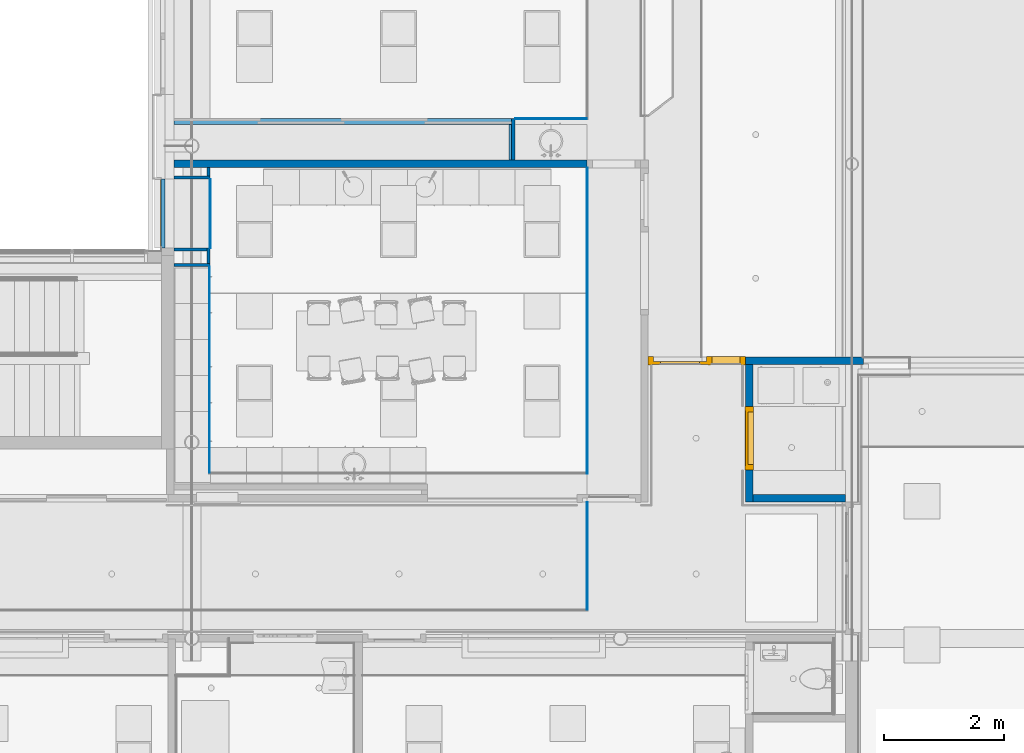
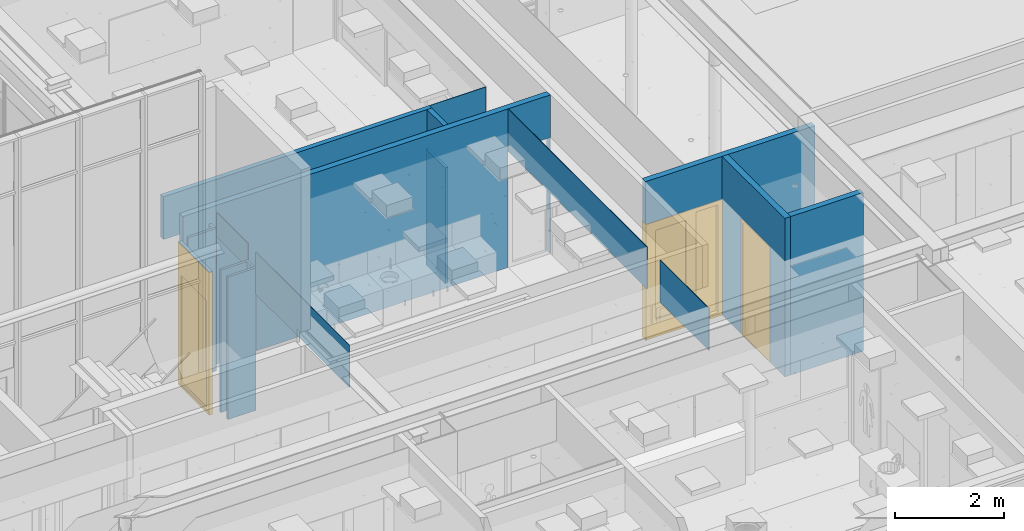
# One storey, part 70 of 347: 18 walls, 2 doors, 1 window, 4 openings.
"""IFC2X3 building model written with IfcOpenShell, lengths in millimetres."""

from ifc_helpers import new_model, entity, si_unit, converted_unit, derived_unit, money_unit, direction, frame, origin_with_axes, place, context, subcontext, project, spatial, open_shell, faceted_brep, surface_model, material, type_object, element, fill, save


model = new_model("IFC2X3")

# Units and contexts
model_context = context("Model", 3, precision=0.01, world=origin_with_axes(), true_north=direction((0.0, 1.0)))
plan_context = context("Plan", 3, precision=0.01, world=origin_with_axes(), true_north=direction((0.0, 1.0)))
body_context = subcontext(model_context, "Body", "Model", "MODEL_VIEW")
ifc_project = project(units=[si_unit("LENGTHUNIT", "METRE", prefix="MILLI"), si_unit("AREAUNIT", "SQUARE_METRE"), si_unit("VOLUMEUNIT", "CUBIC_METRE"), converted_unit("PLANEANGLEUNIT", "DEGREE", entity("IfcPlaneAngleMeasure", 0.0174532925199), si_unit("PLANEANGLEUNIT", "RADIAN"), dimensions=[0, 0, 0, 0, 0, 0, 0]), money_unit("EUR"), converted_unit("TIMEUNIT", "Year", entity("IfcTimeMeasure", 31556926.0), si_unit("TIMEUNIT", "SECOND"), dimensions=[0, 0, 1, 0, 0, 0, 0]), si_unit("MASSUNIT", "GRAM", prefix="KILO"), si_unit("THERMODYNAMICTEMPERATUREUNIT", "DEGREE_CELSIUS"), si_unit("LUMINOUSINTENSITYUNIT", "LUMEN"), si_unit("ENERGYUNIT", "JOULE", prefix="MEGA"), derived_unit("THERMALCONDUCTANCEUNIT", [(si_unit("POWERUNIT", "WATT"), 1), (si_unit("LENGTHUNIT", "METRE"), -1), (si_unit("THERMODYNAMICTEMPERATUREUNIT", "KELVIN"), -1)]), derived_unit("SPECIFICHEATCAPACITYUNIT", [(si_unit("ENERGYUNIT", "JOULE"), 1), (si_unit("MASSUNIT", "GRAM", prefix="KILO"), -1), (si_unit("THERMODYNAMICTEMPERATUREUNIT", "KELVIN"), -1)]), derived_unit("MASSDENSITYUNIT", [(si_unit("MASSUNIT", "GRAM", prefix="KILO"), 1), (si_unit("VOLUMEUNIT", "CUBIC_METRE"), -1)])], contexts=[model_context, plan_context])

# Site, building, storey
site_placement = place(None, origin_with_axes())
site = spatial("IfcSite", under=ifc_project, at=site_placement, Name="Site", CompositionType="ELEMENT")
building_placement = place(site_placement, origin_with_axes())
building = spatial("IfcBuilding", under=site, at=building_placement, Name="Naam gebouw", CompositionType="ELEMENT")
storey_placement = place(building_placement, origin_with_axes())
storey = spatial("IfcBuildingStorey", under=building, at=storey_placement, Name="begane grond", CompositionType="ELEMENT", Elevation=0.0)

# Wall
ifc_material_1 = material(Name="ALG - LICHTE SCHEIDINGSWAND")
wall_type_1 = type_object("IfcWallType", Name="ALG LSW 125 125", PredefinedType="NOTDEFINED")
wall_1_placement = place(storey_placement, frame((33825.0, 14400.0, 0.0), z_axis=(0.0, 0.0, 1.0), x_axis=(1.0, 0.0, 0.0)))
element("IfcWall", 1, at=wall_1_placement, inside=storey, type_object=wall_type_1, material=ifc_material_1, Name="22_GF 125 ECO DGS/2.75.3A", context=body_context, shape_type="Brep", body=[
    faceted_brep([(1670.0, 125.0, 0.0), (1670.0, 0.0, 0.0), (125.0, 0.0, 0.0), (125.0, 125.0, 0.0), (1670.0, 125.0, 3560.0), (1670.0, 0.0, 3560.0), (125.0, 0.0, 3560.0), (125.0, 125.0, 3560.0)], [[[0, 1, 2, 3]], [[1, 0, 4, 5]], [[1, 5, 6, 2]], [[7, 3, 2, 6]], [[4, 0, 3, 7]], [[5, 4, 7, 6]]]),
])

# Wall, opening, door
wall_2_placement = place(storey_placement, frame((33825.0, 16825.0, 0.0), z_axis=(0.0, 0.0, 1.0), x_axis=(0.0, -1.0, 0.0)))
wall_2 = element("IfcWall", 2, at=wall_2_placement, inside=storey, type_object=wall_type_1, material=ifc_material_1, Name="22_GF 125 ECO DGS/2.75.3A", context=body_context, shape_type="Brep", body=[
    faceted_brep([(1889.0, 125.0, 0.0), (1889.0, 125.0, 2600.0), (825.0, 125.0, 2600.0), (825.0, 125.0, 450.0), (125.0, 125.0, 450.0), (125.0, 125.0, 3560.0), (2425.0, 125.0, 3560.0), (2425.0, 125.0, 0.0), (2300.0, 125.0, 980.0), (2300.0, 125.0, 1000.0), (1900.0, 125.0, 1000.0), (1900.0, 125.0, 980.0), (1889.0, 0.0, 0.0), (1889.0, 0.0, 2600.0), (825.0, 0.0, 2600.0), (825.0, 0.0, 0.0), (825.0, 99.9999999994, 0.0), (825.0, 99.9999999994, 450.0), (125.0, 99.9999999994, 450.0), (125.0, 0.0, 0.0), (125.0, 0.0, 3560.0), (125.0, 99.9999999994, 0.0), (2425.0, 0.0, 3560.0), (2425.0, 0.0, 0.0), (2300.0, 99.9999999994, 980.0), (2300.0, 99.9999999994, 1000.0), (1900.0, 99.9999999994, 1000.0), (1900.0, 99.9999999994, 980.0)], [[[0, 1, 2, 3, 4, 5, 6, 7], [8, 9, 10, 11]], [[1, 0, 12, 13]], [[2, 1, 13, 14]], [[3, 2, 14, 15, 16, 17]], [[3, 17, 18, 4]], [[19, 20, 5, 4, 18, 21]], [[22, 6, 5, 20]], [[23, 7, 6, 22]], [[12, 0, 7, 23]], [[9, 8, 24, 25]], [[10, 9, 25, 26]], [[11, 10, 26, 27]], [[8, 11, 27, 24]], [[13, 12, 23, 22, 20, 19, 15, 14]], [[16, 15, 19, 21]], [[17, 16, 21, 18]], [[27, 26, 25, 24]]]),
])
opening_1_placement = place(wall_2_placement, frame((1357.0, 0.0, 0.0), z_axis=(0.0, 0.0, 1.0), x_axis=(1.0, 0.0, 0.0)))
opening_1 = element("IfcOpeningElement", 3, at=opening_1_placement, cuts=wall_2, Name="32_01.02", context=body_context, shape_type="Brep", body=[
    faceted_brep([(532.0, -257.0, 2600.0), (532.0, -257.0, 0.0), (532.0, 125.0, 0.0), (532.0, 125.0, 2600.0), (-532.0, -257.0, 2600.0), (-532.0, -257.0, 0.0), (-532.0, 125.0, 0.0), (-532.0, 125.0, 2600.0)], [[[0, 1, 2, 3]], [[0, 4, 5, 1]], [[1, 5, 6, 2]], [[3, 2, 6, 7]], [[4, 0, 3, 7]], [[5, 4, 7, 6]]]),
])
door_style_1 = type_object("IfcDoorStyle", Name="D1 25", ConstructionType="NOTDEFINED", OperationType="SINGLE_SWING_LEFT", ParameterTakesPrecedence=False, Sizeable=False)
door_1_placement = place(opening_1_placement, frame((532.0, 0.0, 0.0), z_axis=(0.0, 0.0, 1.0), x_axis=(-1.0, 0.0, 0.0)))
door_1 = element("IfcDoor", 4, at=door_1_placement, inside=storey, type_object=door_style_1, Name="32_01.02", ObjectType="DOOR", OverallHeight=2600.0, OverallWidth=1064.0, context=body_context, shape_type="Brep", body=[
    faceted_brep([(999.0, -33.0, 10.0), (999.0, 7.0, 10.0), (65.0, 7.0, 10.0), (65.0, -33.0, 10.0), (90.0, -33.0, 10.0), (90.0, -132.0, 10.0), (974.0, -132.0, 10.0), (974.0, -33.0, 10.0), (999.0, -33.0, 0.0), (999.0, 7.0, 0.0), (65.0, 7.0, 0.0), (65.0, -33.0, 0.0), (90.0, -33.0, 0.0), (90.0, -132.0, 0.0), (974.0, -132.0, 0.0), (974.0, -33.0, 0.0)], [[[0, 1, 2, 3, 4, 5, 6, 7]], [[8, 9, 1, 0]], [[9, 10, 2, 1]], [[11, 3, 2, 10]], [[3, 11, 12, 4]], [[5, 4, 12, 13]], [[6, 5, 13, 14]], [[14, 15, 7, 6]], [[7, 15, 8, 0]], [[15, 14, 13, 12, 11, 10, 9, 8]]]),
    faceted_brep([(974.0, -43.0, 0.0), (974.0, -132.0, 0.0), (974.0, -132.0, 2510.0), (974.0, -43.0, 2510.0), (999.0, -43.0, 0.0), (999.0, 7.0, 0.0), (1064.0, 7.0, 0.0), (1064.0, -132.0, 0.0), (1064.0, -132.0, 2510.0), (999.0, -43.0, 2510.0), (1064.0, 7.0, 2510.0), (999.0, 7.0, 2510.0)], [[[0, 1, 2, 3]], [[4, 5, 6, 7, 1, 0]], [[1, 7, 8, 2]], [[9, 3, 2, 8, 10, 11]], [[9, 4, 0, 3]], [[11, 5, 4, 9]], [[11, 10, 6, 5]], [[6, 10, 8, 7]]]),
    faceted_brep([(65.0, -43.0, 2510.0), (65.0, 7.0, 2510.0), (0.0, 7.0, 2510.0), (0.0, -132.0, 2510.0), (90.0, -132.0, 2510.0), (90.0, -43.0, 2510.0), (65.0, -43.0, 0.0), (65.0, 7.0, 0.0), (0.0, 7.0, 0.0), (0.0, -132.0, 0.0), (90.0, -132.0, 0.0), (90.0, -43.0, 0.0)], [[[0, 1, 2, 3, 4, 5]], [[0, 6, 7, 1]], [[7, 8, 2, 1]], [[2, 8, 9, 3]], [[3, 9, 10, 4]], [[5, 4, 10, 11]], [[5, 11, 6, 0]], [[6, 11, 10, 9, 8, 7]]]),
    faceted_brep([(999.0, 7.0, 2535.0), (65.0, 7.0, 2535.0), (65.0, 7.0, 2510.0), (0.0, 7.0, 2510.0), (0.0, 7.0, 2600.0), (1064.0, 7.0, 2600.0), (1064.0, 7.0, 2510.0), (999.0, 7.0, 2510.0), (999.0, -43.0, 2535.0), (65.0, -43.0, 2535.0), (65.0, -43.0, 2510.0), (90.0, -43.0, 2510.0), (90.0, -132.0, 2510.0), (0.0, -132.0, 2510.0), (0.0, -132.0, 2600.0), (1064.0, -132.0, 2600.0), (1064.0, -132.0, 2510.0), (999.0, -43.0, 2510.0), (974.0, -132.0, 2510.0), (974.0, -43.0, 2510.0)], [[[0, 1, 2, 3, 4, 5, 6, 7]], [[0, 8, 9, 1]], [[1, 9, 10, 2]], [[10, 11, 12, 13, 3, 2]], [[4, 3, 13, 14]], [[5, 4, 14, 15]], [[6, 5, 15, 16]], [[17, 7, 6, 16, 18, 19]], [[7, 17, 8, 0]], [[10, 9, 8, 17, 19, 11]], [[19, 18, 12, 11]], [[12, 18, 16, 15, 14, 13]]]),
    faceted_brep([(65.0, -3.0, 10.0), (999.0, -3.0, 10.0), (999.0, -43.0, 10.0), (65.0, -43.0, 10.0), (65.0, -3.0, 2535.0), (999.0, -3.0, 2535.0), (999.0, -43.0, 2535.0), (65.0, -43.0, 2535.0)], [[[0, 1, 2, 3]], [[0, 4, 5, 1]], [[1, 5, 6, 2]], [[3, 2, 6, 7]], [[4, 0, 3, 7]], [[5, 4, 7, 6]]]),
])
fill(opening_1, door_1)

wall_3_placement = place(storey_placement, frame((35795.0001093, 16825.0, 0.0), z_axis=(0.0, 0.0, 1.0), x_axis=(-1.0, 0.0, 0.0)))
wall_3 = element("IfcWall", 5, at=wall_3_placement, inside=storey, type_object=wall_type_1, material=ifc_material_1, Name="22_GF 125 ECO DGS/2.75.3A", context=body_context, shape_type="Brep", body=[
    faceted_brep([(1970.00010927, 0.0, 2600.0), (3595.00010928, 0.0, 2600.0), (3595.00010928, 0.0, 3560.0), (0.0, 0.0, 3560.0), (0.0, 0.0, 0.0), (1970.00010927, 0.0, 0.0), (1970.00010927, 125.0, 2600.0), (3595.00010928, 125.0, 2600.0), (3595.00010928, 125.0, 3560.0), (0.0, 125.0, 3560.0), (0.0, 125.0, 0.0), (1970.00010927, 125.0, 0.0)], [[[0, 1, 2, 3, 4, 5]], [[1, 0, 6, 7]], [[1, 7, 8, 2]], [[8, 9, 3, 2]], [[4, 3, 9, 10]], [[11, 5, 4, 10]], [[0, 5, 11, 6]], [[6, 11, 10, 9, 8, 7]]]),
])
opening_2_placement = place(wall_3_placement, frame((2782.50010928, 0.0, 0.0), z_axis=(0.0, 0.0, 1.0), x_axis=(1.0, 0.0, 0.0)))
opening_2 = element("IfcOpeningElement", 6, at=opening_2_placement, cuts=wall_3, Name="32_04.04", context=body_context, shape_type="Brep", body=[
    faceted_brep([(812.5, -125.0, 2600.0), (812.5, -125.0, 0.0), (812.5, 257.0, 0.0), (812.5, 257.0, 2600.0), (-812.5, -125.0, 2600.0), (-812.5, -125.0, 0.0), (-812.5, 257.0, 0.0), (-812.5, 257.0, 2600.0)], [[[0, 1, 2, 3]], [[0, 4, 5, 1]], [[1, 5, 6, 2]], [[3, 2, 6, 7]], [[4, 0, 3, 7]], [[5, 4, 7, 6]]]),
])
door_style_2 = type_object("IfcDoorStyle", Name="D1 zl1-b 25", ConstructionType="NOTDEFINED", OperationType="SINGLE_SWING_RIGHT", ParameterTakesPrecedence=False, Sizeable=False)
door_2_placement = place(opening_2_placement, frame((-812.5, 0.0, 0.0), z_axis=(0.0, 0.0, 1.0), x_axis=(1.0, 0.0, 0.0)))
door_2 = element("IfcDoor", 7, at=door_2_placement, inside=storey, type_object=door_style_2, Name="32_04.04", ObjectType="DOOR", OverallHeight=2600.0, OverallWidth=1625.0, context=body_context, shape_type="SurfaceModel", body=[
    faceted_brep([(0.0, 132.0, 0.0), (90.0, 132.0, 0.0), (90.0, -7.0, 0.0), (0.0, -7.0, 0.0), (0.0, 132.0, 2510.0), (90.0, 132.0, 2510.0), (90.0, 132.0, 90.0), (90.0, -7.0, 90.0), (90.0, -7.0, 2510.0), (0.0, -7.0, 2510.0)], [[[0, 1, 2, 3]], [[0, 4, 5, 6, 1]], [[1, 6, 7, 2]], [[3, 2, 7, 8, 9]], [[4, 0, 3, 9]], [[5, 4, 9, 8]], [[6, 5, 8, 7]]]),
    faceted_brep([(651.000000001, 72.0, 0.0), (651.000000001, 72.0, 2510.0), (651.000000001, -7.0, 2510.0), (651.000000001, -7.0, 0.0), (626.000000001, 72.0, 2510.0), (626.000000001, 72.0, 0.0), (626.000000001, 132.0, 2510.0), (561.000000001, 132.0, 2510.0), (561.000000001, -7.0, 2510.0), (561.000000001, -7.0, 0.0), (561.000000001, -7.0, 90.0), (561.000000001, 132.0, 0.0), (626.000000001, 132.0, 0.0), (561.000000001, 132.0, 90.0)], [[[0, 1, 2, 3]], [[4, 1, 0, 5]], [[4, 6, 7, 8, 2, 1]], [[9, 3, 2, 8, 10]], [[5, 0, 3, 9, 11, 12]], [[6, 4, 5, 12]], [[6, 12, 11, 13, 7]], [[13, 10, 8, 7]], [[11, 9, 10, 13]]]),
    faceted_brep([(90.0, 132.0, 90.0), (90.0, 132.0, 0.0), (90.0, -7.0, 0.0), (90.0, -7.0, 90.0), (561.000000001, 132.0, 90.0), (561.000000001, 132.0, 0.0), (561.000000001, -7.0, 0.0), (561.000000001, -7.0, 90.0)], [[[0, 1, 2, 3]], [[0, 4, 5, 1]], [[1, 5, 6, 2]], [[3, 2, 6, 7]], [[4, 0, 3, 7]], [[5, 4, 7, 6]]]),
    faceted_brep([(1560.0, 72.0, 2510.0), (1535.0, 72.0, 2510.0), (1535.0, -7.0, 2510.0), (1625.0, -7.0, 2510.0), (1625.0, 132.0, 2510.0), (1560.0, 132.0, 2510.0), (1560.0, 72.0, 0.0), (1535.0, 72.0, 0.0), (1535.0, -7.0, 0.0), (1625.0, -7.0, 0.0), (1625.0, 132.0, 0.0), (1560.0, 132.0, 0.0)], [[[0, 1, 2, 3, 4, 5]], [[1, 0, 6, 7]], [[1, 7, 8, 2]], [[3, 2, 8, 9]], [[4, 3, 9, 10]], [[11, 5, 4, 10]], [[0, 5, 11, 6]], [[6, 11, 10, 9, 8, 7]]]),
    faceted_brep([(626.000000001, 132.0, 2535.0), (626.000000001, 132.0, 2510.0), (561.000000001, 132.0, 2510.0), (90.0, 132.0, 2510.0), (0.0, 132.0, 2510.0), (0.0, 132.0, 2600.0), (1625.0, 132.0, 2600.0), (1625.0, 132.0, 2510.0), (1560.0, 132.0, 2510.0), (1560.0, 132.0, 2535.0), (626.000000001, 72.0, 2535.0), (626.000000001, 72.0, 2510.0), (1535.0, 72.0, 2510.0), (1535.0, -7.0, 2510.0), (651.000000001, -7.0, 2510.0), (561.000000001, -7.0, 2510.0), (90.0, -7.0, 2510.0), (0.0, -7.0, 2510.0), (0.0, -7.0, 2600.0), (1625.0, -7.0, 2600.0), (1625.0, -7.0, 2510.0), (1560.0, 72.0, 2510.0), (1560.0, 72.0, 2535.0)], [[[0, 1, 2, 3, 4, 5, 6, 7, 8, 9]], [[1, 0, 10, 11]], [[11, 12, 13, 14, 15, 2, 1]], [[2, 15, 16, 3]], [[3, 16, 17, 4]], [[4, 17, 18, 5]], [[5, 18, 19, 6]], [[6, 19, 20, 7]], [[21, 8, 7, 20, 13, 12]], [[9, 8, 21, 22]], [[0, 9, 22, 10]], [[21, 12, 11, 10, 22]], [[13, 20, 19, 18, 17, 16, 15, 14]]]),
    faceted_brep([(1560.0, 126.0, 400.0), (1560.0, 72.0, 400.0), (1420.0, 72.0, 400.0), (1420.0, 126.0, 400.0), (1560.0, 126.0, 2395.0), (1560.0, 72.0, 2395.0), (1420.0, 72.0, 2395.0), (1420.0, 126.0, 2395.0)], [[[0, 1, 2, 3]], [[4, 5, 1, 0]], [[1, 5, 6, 2]], [[3, 2, 6, 7]], [[0, 3, 7, 4]], [[7, 6, 5, 4]]]),
    faceted_brep([(626.000000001, 126.0, 400.0), (626.000000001, 72.0, 400.0), (626.000000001, 72.0, 2395.0), (626.000000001, 126.0, 2395.0), (766.000000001, 126.0, 400.0), (766.000000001, 72.0, 400.0), (766.000000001, 72.0, 2395.0), (766.000000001, 126.0, 2395.0)], [[[0, 1, 2, 3]], [[4, 5, 1, 0]], [[1, 5, 6, 2]], [[3, 2, 6, 7]], [[0, 3, 7, 4]], [[7, 6, 5, 4]]]),
    faceted_brep([(1560.0, 126.0, 0.0), (1560.0, 72.0, 0.0), (626.000000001, 72.0, 0.0), (626.000000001, 126.0, 0.0), (1560.0, 126.0, 400.0), (1560.0, 72.0, 400.0), (1420.0, 72.0, 400.0), (766.000000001, 72.0, 400.0), (626.000000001, 72.0, 400.0), (626.000000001, 126.0, 400.0), (766.000000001, 126.0, 400.0), (1420.0, 126.0, 400.0)], [[[0, 1, 2, 3]], [[4, 5, 1, 0]], [[1, 5, 6, 7, 8, 2]], [[3, 2, 8, 9]], [[0, 3, 9, 10, 11, 4]], [[11, 6, 5, 4]], [[10, 7, 6, 11]], [[9, 8, 7, 10]]]),
    faceted_brep([(1560.0, 126.0, 2535.0), (1560.0, 72.0, 2535.0), (1560.0, 72.0, 2395.0), (1560.0, 126.0, 2395.0), (626.000000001, 126.0, 2535.0), (626.000000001, 72.0, 2535.0), (626.000000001, 72.0, 2395.0), (766.000000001, 72.0, 2395.0), (1420.0, 72.0, 2395.0), (1420.0, 126.0, 2395.0), (766.000000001, 126.0, 2395.0), (626.000000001, 126.0, 2395.0)], [[[0, 1, 2, 3]], [[4, 5, 1, 0]], [[1, 5, 6, 7, 8, 2]], [[3, 2, 8, 9]], [[0, 3, 9, 10, 11, 4]], [[11, 6, 5, 4]], [[10, 7, 6, 11]], [[9, 8, 7, 10]]]),
    surface_model("IfcShellBasedSurfaceModel", [(1420.0, 105.0, 400.0), (766.000000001, 105.0, 400.0), (766.000000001, 105.0, 2395.0), (1420.0, 105.0, 2395.0)], [open_shell([[[0, 1, 2, 3]]])]),
    surface_model("IfcShellBasedSurfaceModel", [(1420.0, 93.0, 400.0), (1420.0, 93.0, 2395.0), (766.000000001, 93.0, 2395.0), (766.000000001, 93.0, 400.0)], [open_shell([[[0, 1, 2, 3]]])]),
    surface_model("IfcShellBasedSurfaceModel", [(90.0, 53.0, 90.0), (90.0, 53.0, 2510.0), (561.000000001, 53.0, 2510.0), (561.000000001, 53.0, 90.0)], [open_shell([[[0, 1, 2, 3]]])]),
    surface_model("IfcShellBasedSurfaceModel", [(90.0, 41.0, 90.0), (561.000000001, 41.0, 90.0), (561.000000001, 41.0, 2510.0), (90.0, 41.0, 2510.0)], [open_shell([[[0, 1, 2, 3]]])]),
])
fill(opening_2, door_2)

# Wall, opening
wall_4_placement = place(storey_placement, frame((24275.0, 20050.0, 0.0), z_axis=(0.0, 0.0, 1.0), x_axis=(1.0, 0.0, 0.0)))
wall_4 = element("IfcWall", 8, at=wall_4_placement, inside=storey, type_object=wall_type_1, material=ifc_material_1, Name="22_GF 125 ECO DGS/2.75.2A", context=body_context, shape_type="Brep", body=[
    faceted_brep([(7793.0, 62.5, 2600.0), (6900.0, 62.5, 2600.0), (6900.0, 62.5, 0.0), (8.19561662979e-06, 62.5, -3.65078798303e-05), (8.19561662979e-06, 62.5, 3560.0), (7800.0, 62.5, 3559.99999992), (7800.0, 62.5, -1.15295062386e-06), (7793.0, 62.5, 0.0), (6900.0, -62.5, 2600.0), (7793.0, -62.5, 2600.0), (6900.0, -62.5, 0.0), (8.19561662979e-06, -62.5, -3.65078798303e-05), (8.19561662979e-06, -62.5, 3560.0), (7800.0, -62.5, 3559.99999992), (7800.0, -62.5, -1.15295062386e-06), (7793.0, -62.5, 0.0)], [[[0, 1, 2, 3, 4, 5, 6, 7]], [[8, 1, 0, 9]], [[10, 2, 1, 8]], [[3, 2, 10, 11]], [[12, 4, 3, 11]], [[5, 4, 12, 13]], [[14, 6, 5, 13]], [[14, 15, 7, 6]], [[9, 0, 7, 15]], [[8, 9, 15, 14, 13, 12, 11, 10]]]),
])
opening_3_placement = place(wall_4_placement, frame((7346.5, 0.0, 0.0), z_axis=(0.0, 0.0, 1.0), x_axis=(1.0, 0.0, 0.0)))
element("IfcOpeningElement", 9, at=opening_3_placement, cuts=wall_4, Name="31_07.02", context=body_context, shape_type="Brep", body=[
    faceted_brep([(-446.5, 125.0, 2600.0), (-446.5, 125.0, 0.0), (-446.5, -257.0, 0.0), (-446.5, -257.0, 2600.0), (446.5, 125.0, 2600.0), (446.5, 125.0, 0.0), (446.5, -257.0, 0.0), (446.5, -257.0, 2600.0)], [[[0, 1, 2, 3]], [[0, 4, 5, 1]], [[1, 5, 6, 2]], [[3, 2, 6, 7]], [[4, 0, 3, 7]], [[5, 4, 7, 6]]]),
])

# Walls
wall_type_2 = type_object("IfcWallType", Name="44 koof 50", PredefinedType="NOTDEFINED")
wall_5_placement = place(storey_placement, frame((31175.0, 14890.0000948, 2600.0), z_axis=(0.0, 0.0, 1.0), x_axis=(0.0, 1.0, 0.0)))
element("IfcWall", 10, at=wall_5_placement, inside=storey, type_object=wall_type_2, material=ifc_material_1, Name="21_22 betonwand", context=body_context, shape_type="Brep", body=[
    faceted_brep([(-12.0, -12.0, 12.0), (5090.49990516, -12.0, 12.0), (5090.49990516, -12.0, 0.0), (5097.49990516, -12.0, 0.0), (5097.49990516, -12.0, 960.0), (-12.0, -12.0, 960.0), (5090.49990516, 0.0, 12.0), (-12.0, 0.0, 12.0), (5090.49990516, 0.0, 0.0), (5097.49990516, 0.0, 0.0), (5097.49990516, 0.0, 960.0), (-12.0, 0.0, 960.0)], [[[0, 1, 2, 3, 4, 5]], [[6, 1, 0, 7]], [[8, 2, 1, 6]], [[3, 2, 8, 9]], [[9, 10, 4, 3]], [[11, 5, 4, 10]], [[11, 7, 0, 5]], [[8, 6, 7, 11, 10, 9]]]),
])
wall_6_placement = place(storey_placement, frame((31175.0, 12600.0, 2600.0), z_axis=(0.0, 0.0, 1.0), x_axis=(0.0, 1.0, 0.0)))
element("IfcWall", 11, at=wall_6_placement, inside=storey, type_object=wall_type_2, material=ifc_material_1, Name="21_23 betonwand", context=body_context, shape_type="Brep", body=[
    faceted_brep([(0.0, -12.0, 960.0), (0.0, -12.0, 12.0), (1800.0, -12.0, 12.0), (1800.0, -12.0, 960.0), (0.0, 0.0, 960.0), (0.0, 0.0, 12.0), (1800.0, 0.0, 12.0), (1800.0, 0.0, 960.0)], [[[0, 1, 2, 3]], [[4, 5, 1, 0]], [[5, 6, 2, 1]], [[3, 2, 6, 7]], [[0, 3, 7, 4]], [[7, 6, 5, 4]]]),
])
wall_7_placement = place(storey_placement, frame((24875.0, 18335.0, 2600.0), z_axis=(0.0, 0.0, 1.0), x_axis=(0.0, -1.0, 0.0)))
element("IfcWall", 12, at=wall_7_placement, inside=storey, type_object=wall_type_2, material=ifc_material_1, Name="21_22 betonwand", context=body_context, shape_type="Brep", body=[
    faceted_brep([(3444.99990516, 7.45821182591e-08, 960.0), (3444.99990516, 0.0, 12.0), (0.0, 0.0, 12.0), (0.0, 0.0, 600.0), (0.0, 1.78814119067e-06, 960.0), (3444.99990516, -11.9999999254, 960.0), (3444.99990516, -11.9999999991, 12.0), (0.0, -11.9999999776, 12.0), (0.0, -11.9999982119, 960.0)], [[[0, 1, 2, 3, 4]], [[5, 6, 1, 0]], [[6, 7, 2, 1]], [[3, 2, 7, 8, 4]], [[8, 5, 0, 4]], [[8, 7, 6, 5]]]),
])
wall_8_placement = place(storey_placement, frame((24877.0, 19795.0, 3005.0), z_axis=(0.0, 0.0, 1.0), x_axis=(0.0, -1.0, 0.0)))
element("IfcWall", 13, at=wall_8_placement, inside=storey, type_object=wall_type_2, material=ifc_material_1, Name="21_22 betonwand", context=body_context, shape_type="Brep", body=[
    faceted_brep([(0.0, 12.0, 0.0), (1150.0, 12.0, 0.0), (1150.0, 0.0, 0.0), (0.0, 0.0, 0.0), (0.0, 12.0, 555.0), (1150.0, 12.0, 555.0), (1150.0, 0.0, 555.0), (0.0, 0.0, 555.0)], [[[0, 1, 2, 3]], [[4, 5, 1, 0]], [[2, 1, 5, 6]], [[3, 2, 6, 7]], [[4, 0, 3, 7]], [[7, 6, 5, 4]]]),
])
wall_9_placement = place(storey_placement, frame((29975.0, 20812.5, 2600.0), z_axis=(0.0, 0.0, 1.0), x_axis=(1.0, 0.0, 0.0)))
element("IfcWall", 14, at=wall_9_placement, inside=storey, type_object=wall_type_2, material=ifc_material_1, Name="21_22 betonwand", context=body_context, shape_type="Brep", body=[
    faceted_brep([(1200.0, -12.0, 960.0), (1200.0, -12.0, 12.0), (1200.0, 0.0, 12.0), (1200.0, 0.0, 960.0), (0.0, -12.0, 959.99999995), (0.0, -12.0, 12.0), (0.0, 0.0, 12.0), (0.0, 0.0, 959.99999995)], [[[0, 1, 2, 3]], [[4, 5, 1, 0]], [[5, 6, 2, 1]], [[3, 2, 6, 7]], [[0, 3, 7, 4]], [[7, 6, 5, 4]]]),
])
ifc_material_2 = material(Name="32 schuideur")
wall_type_3 = type_object("IfcWallType", Name="32 schuideur 60", PredefinedType="NOTDEFINED")
wall_10_placement = place(storey_placement, frame((29915.0, 20050.0, 0.0), z_axis=(0.0, 0.0, 1.0), x_axis=(0.0, 1.0, 0.0)))
element("IfcWall", 15, at=wall_10_placement, inside=storey, type_object=wall_type_3, material=ifc_material_2, Name="22_GF 100 RD/2.50.2.", context=body_context, shape_type="Brep", body=[
    faceted_brep([(62.5, -60.0, 2600.0), (762.5, -60.0, 2600.0), (762.5, 0.0, 2600.0), (62.5, 0.0, 2600.0), (62.5, -60.0, 0.0), (762.5, -60.0, 0.0), (762.5, 0.0, 0.0), (62.5, 0.0, 0.0)], [[[0, 1, 2, 3]], [[4, 5, 1, 0]], [[2, 1, 5, 6]], [[3, 2, 6, 7]], [[4, 0, 3, 7]], [[7, 6, 5, 4]]]),
])

# Wall, opening, window
ifc_material_3 = material(Name="31 pui/kozijn")
wall_type_4 = type_object("IfcWallType", Name="31 pui (3200+) 62 x 3200", PredefinedType="NOTDEFINED")
wall_11_placement = place(storey_placement, frame((24275.0, 19795.0, 0.0), z_axis=(0.0, 0.0, 1.0), x_axis=(0.0, -1.0, 0.0)))
wall_11 = element("IfcWall", 16, at=wall_11_placement, inside=storey, type_object=wall_type_4, material=ifc_material_3, Name="21_21 betonwand", context=body_context, shape_type="Brep", body=[
    faceted_brep([(1150.0, -150.0, 3190.0), (0.0, -150.0, 3190.0), (0.0, -150.0, 3200.0), (1150.0, -150.0, 3200.0), (0.0, -212.0, 3190.0), (1150.0, -210.0, 3190.0), (1134.99999796, -210.0, 3190.0), (1134.99999796, -212.0, 3190.0), (0.0, -212.0, 3200.0), (1134.99999796, -212.0, 3200.0), (1134.99999796, -210.0, 3200.0), (1150.0, -210.0, 3200.0)], [[[0, 1, 2, 3]], [[4, 1, 0, 5, 6, 7]], [[1, 4, 8, 2]], [[3, 2, 8, 9, 10, 11]], [[5, 0, 3, 11]], [[6, 5, 11, 10]], [[7, 6, 10, 9]], [[4, 7, 9, 8]]]),
])
opening_4_placement = place(wall_11_placement, frame((575.0, 0.0, -10.0), z_axis=(0.0, 0.0, 1.0), x_axis=(1.0, 0.0, 0.0)))
opening_4 = element("IfcOpeningElement", 17, at=opening_4_placement, cuts=wall_11, Name="31_merk-AK", context=body_context, shape_type="Brep", body=[
    faceted_brep([(-575.0, -1196.0, 0.0), (-575.0, -1196.0, 3200.0), (-575.0, 1320.0, 3200.0), (-575.0, 1320.0, 0.0), (575.0, -1196.0, 0.0), (575.0, -1196.0, 3200.0), (575.0, 1320.0, 3200.0), (575.0, 1320.0, 0.0)], [[[0, 1, 2, 3]], [[0, 4, 5, 1]], [[1, 5, 6, 2]], [[3, 2, 6, 7]], [[4, 0, 3, 7]], [[5, 4, 7, 6]]]),
])
window_style = type_object("IfcWindowStyle", Name="Rmeerkeuze 25", ConstructionType="NOTDEFINED", OperationType="DOUBLE_PANEL_HORIZONTAL", ParameterTakesPrecedence=False, Sizeable=False)
window_placement = place(opening_4_placement, frame((-575.0, 0.0, 0.0), z_axis=(0.0, 0.0, 1.0), x_axis=(1.0, 0.0, 0.0)))
window = element("IfcWindow", 18, at=window_placement, inside=storey, type_object=window_style, Name="31_merk-AK", ObjectType="WINDOW", OverallHeight=3200.0, OverallWidth=1150.0, context=body_context, shape_type="SurfaceModel", body=[
    faceted_brep([(1111.0, -150.0, 54.0), (1111.0, -150.0, 2571.0), (1096.0, -150.0, 2571.0), (1096.0, -150.0, 2610.0), (1096.0, -150.0, 3146.0), (1150.0, -150.0, 3146.0), (1150.0, -150.0, 54.0), (1111.0, -212.0, 54.0), (1111.0, -212.0, 2571.0), (1096.0, -212.0, 2571.0), (1096.0, -212.0, 2556.0), (1096.0, -222.0, 2556.0), (1096.0, -222.0, 2610.0), (1096.0, -222.0, 3146.0), (1150.0, -222.0, 3146.0), (1150.0, -222.0, 54.0), (1096.0, -222.0, 54.0), (1096.0, -212.0, 54.0)], [[[0, 1, 2, 3, 4, 5, 6]], [[1, 0, 7, 8]], [[9, 2, 1, 8]], [[9, 10, 11, 12, 3, 2]], [[3, 12, 13, 4]], [[4, 13, 14, 5]], [[5, 14, 15, 6]], [[7, 0, 6, 15, 16, 17]], [[10, 9, 8, 7, 17]], [[10, 17, 16, 11]], [[12, 11, 16, 15, 14, 13]]]),
    faceted_brep([(39.0, -150.0, 2571.0), (39.0, -150.0, 54.0), (0.0, -150.0, 54.0), (0.0, -150.0, 3146.0), (54.0, -150.0, 3146.0), (54.0, -150.0, 2610.0), (54.0, -150.0, 2571.0), (39.0, -212.0, 2571.0), (39.0, -212.0, 54.0), (54.0, -212.0, 54.0), (54.0, -222.0, 54.0), (0.0, -222.0, 54.0), (0.0, -222.0, 3146.0), (54.0, -222.0, 3146.0), (54.0, -222.0, 2610.0), (54.0, -212.0, 2571.0), (54.0, -222.0, 2556.0), (54.0, -212.0, 2556.0)], [[[0, 1, 2, 3, 4, 5, 6]], [[1, 0, 7, 8]], [[8, 9, 10, 11, 2, 1]], [[2, 11, 12, 3]], [[3, 12, 13, 4]], [[4, 13, 14, 5]], [[15, 6, 5, 14, 16, 17]], [[0, 6, 15, 7]], [[9, 8, 7, 15, 17]], [[9, 17, 16, 10]], [[11, 10, 16, 14, 13, 12]]]),
    faceted_brep([(1096.0, -150.0, 2571.0), (54.0, -150.0, 2571.0), (54.0, -150.0, 2610.0), (1096.0, -150.0, 2610.0), (54.0, -212.0, 2571.0), (1096.0, -212.0, 2571.0), (54.0, -212.0, 2556.0), (54.0, -222.0, 2556.0), (54.0, -222.0, 2610.0), (1096.0, -222.0, 2610.0), (1096.0, -222.0, 2556.0), (1096.0, -212.0, 2556.0)], [[[0, 1, 2, 3]], [[4, 1, 0, 5]], [[4, 6, 7, 8, 2, 1]], [[2, 8, 9, 3]], [[5, 0, 3, 9, 10, 11]], [[6, 4, 5, 11]], [[6, 11, 10, 7]], [[10, 9, 8, 7]]]),
    faceted_brep([(54.0, -212.0, 54.0), (39.0, -212.0, 54.0), (39.0, -150.0, 54.0), (0.0, -150.0, 54.0), (0.0, -222.0, 54.0), (54.0, -222.0, 54.0), (1096.0, -212.0, 54.0), (1111.0, -212.0, 54.0), (1111.0, -212.0, 39.0), (39.0, -212.0, 39.0), (39.0, -150.0, 39.0), (1111.0, -150.0, 39.0), (1111.0, -150.0, 54.0), (1150.0, -150.0, 54.0), (1150.0, -150.0, 0.0), (0.0, -150.0, 0.0), (0.0, -222.0, 0.0), (1150.0, -222.0, 54.0), (1096.0, -222.0, 54.0), (1150.0, -222.0, 0.0)], [[[0, 1, 2, 3, 4, 5]], [[1, 0, 6, 7, 8, 9]], [[10, 2, 1, 9]], [[11, 12, 13, 14, 15, 3, 2, 10]], [[15, 16, 4, 3]], [[17, 18, 5, 4, 16, 19]], [[6, 0, 5, 18]], [[7, 6, 18, 17, 13, 12]], [[7, 12, 11, 8]], [[11, 10, 9, 8]], [[13, 17, 19, 14]], [[14, 19, 16, 15]]]),
    faceted_brep([(54.0, -222.0, 3146.0), (0.0, -222.0, 3146.0), (0.0, -150.0, 3146.0), (54.0, -150.0, 3146.0), (1096.0, -222.0, 3146.0), (1150.0, -222.0, 3146.0), (1150.0, -222.0, 3200.0), (0.0, -222.0, 3200.0), (0.0, -150.0, 3200.0), (1150.0, -150.0, 3200.0), (1150.0, -150.0, 3146.0), (1096.0, -150.0, 3146.0)], [[[0, 1, 2, 3]], [[0, 4, 5, 6, 7, 1]], [[1, 7, 8, 2]], [[3, 2, 8, 9, 10, 11]], [[4, 0, 3, 11]], [[5, 4, 11, 10]], [[6, 5, 10, 9]], [[7, 6, 9, 8]]]),
    surface_model("IfcShellBasedSurfaceModel", [(1096.0, -222.0, 2610.0), (1096.0, -222.0, 3146.0), (54.0, -222.0, 3146.0), (54.0, -222.0, 2610.0)], [open_shell([[[0, 1, 2, 3]]])]),
    surface_model("IfcShellBasedSurfaceModel", [(1096.0, -202.0, 2610.0), (54.0, -202.0, 2610.0), (54.0, -202.0, 3146.0), (1096.0, -202.0, 3146.0)], [open_shell([[[0, 1, 2, 3]]])]),
    faceted_brep([(1043.0, -212.0, 2503.0), (1111.0, -212.0, 2503.0), (1111.0, -150.0, 2503.0), (1043.0, -150.0, 2503.0), (1043.0, -212.0, 107.0), (1111.0, -212.0, 107.0), (1111.0, -150.0, 107.0), (1043.0, -150.0, 107.0)], [[[0, 1, 2, 3]], [[0, 4, 5, 1]], [[1, 5, 6, 2]], [[3, 2, 6, 7]], [[4, 0, 3, 7]], [[5, 4, 7, 6]]]),
    faceted_brep([(107.0, -212.0, 107.0), (39.0, -212.0, 107.0), (39.0, -150.0, 107.0), (107.0, -150.0, 107.0), (107.0, -212.0, 2503.0), (39.0, -212.0, 2503.0), (39.0, -150.0, 2503.0), (107.0, -150.0, 2503.0)], [[[0, 1, 2, 3]], [[0, 4, 5, 1]], [[1, 5, 6, 2]], [[3, 2, 6, 7]], [[4, 0, 3, 7]], [[5, 4, 7, 6]]]),
    faceted_brep([(39.0, -212.0, 39.0), (39.0, -212.0, 107.0), (39.0, -150.0, 107.0), (39.0, -150.0, 39.0), (1111.0, -212.0, 39.0), (1111.0, -212.0, 107.0), (1043.0, -212.0, 107.0), (107.0, -212.0, 107.0), (107.0, -150.0, 107.0), (1043.0, -150.0, 107.0), (1111.0, -150.0, 107.0), (1111.0, -150.0, 39.0)], [[[0, 1, 2, 3]], [[0, 4, 5, 6, 7, 1]], [[1, 7, 8, 2]], [[3, 2, 8, 9, 10, 11]], [[4, 0, 3, 11]], [[5, 4, 11, 10]], [[6, 5, 10, 9]], [[7, 6, 9, 8]]]),
    faceted_brep([(1111.0, -212.0, 2571.0), (1111.0, -212.0, 2503.0), (1111.0, -150.0, 2503.0), (1111.0, -150.0, 2571.0), (39.0, -212.0, 2571.0), (39.0, -212.0, 2503.0), (107.0, -212.0, 2503.0), (1043.0, -212.0, 2503.0), (1043.0, -150.0, 2503.0), (107.0, -150.0, 2503.0), (39.0, -150.0, 2503.0), (39.0, -150.0, 2571.0)], [[[0, 1, 2, 3]], [[0, 4, 5, 6, 7, 1]], [[1, 7, 8, 2]], [[3, 2, 8, 9, 10, 11]], [[4, 0, 3, 11]], [[5, 4, 11, 10]], [[6, 5, 10, 9]], [[7, 6, 9, 8]]]),
    surface_model("IfcShellBasedSurfaceModel", [(1043.0, -191.0, 107.0), (1043.0, -191.0, 2503.0), (107.0, -191.0, 2503.0), (107.0, -191.0, 107.0)], [open_shell([[[0, 1, 2, 3]]])]),
    surface_model("IfcShellBasedSurfaceModel", [(1043.0, -171.0, 107.0), (107.0, -171.0, 107.0), (107.0, -171.0, 2503.0), (1043.0, -171.0, 2503.0)], [open_shell([[[0, 1, 2, 3]]])]),
])
fill(opening_4, window)

# Walls
wall_type_5 = type_object("IfcWallType", Name="ALG LSW 100 kast 100", PredefinedType="NOTDEFINED")
wall_12_placement = place(storey_placement, frame((29975.0, 20812.5, 2600.0), z_axis=(0.0, 0.0, 1.0), x_axis=(-1.0, 0.0, 0.0)))
element("IfcWall", 19, at=wall_12_placement, inside=storey, type_object=wall_type_5, material=ifc_material_1, Name="22_GF 125 ECO DGS/2.75.2A", context=body_context, shape_type="Brep", body=[
    faceted_brep([(0.0, 0.0, 0.0), (5699.9999918, 0.0, 0.0), (5699.9999918, 0.0, 960.0), (0.0, 0.0, 959.99999995), (0.0, 100.0, 0.0), (5699.9999918, 100.0, 0.0), (5699.9999918, 100.0, 960.0), (0.0, 100.0, 959.99999995)], [[[0, 1, 2, 3]], [[4, 5, 1, 0]], [[6, 2, 1, 5]], [[3, 2, 6, 7]], [[4, 0, 3, 7]], [[6, 5, 4, 7]]]),
])
wall_13_placement = place(storey_placement, frame((29975.0, 20050.0, 2600.0), z_axis=(0.0, 0.0, 1.0), x_axis=(0.0, 1.0, 0.0)))
element("IfcWall", 20, at=wall_13_placement, inside=storey, type_object=wall_type_5, material=ifc_material_1, Name="22_GF 125 ECO DGS/2.75.2A", context=body_context, shape_type="Brep", body=[
    faceted_brep([(662.5, 100.0, 0.0), (662.5, 0.0, 0.0), (62.5, 0.0, 0.0), (62.5, 100.0, 0.0), (662.5, 100.0, 960.0), (662.5, 0.0, 960.0), (62.5, 0.0, 960.0), (62.5, 100.0, 960.0)], [[[0, 1, 2, 3]], [[1, 0, 4, 5]], [[1, 5, 6, 2]], [[7, 3, 2, 6]], [[4, 0, 3, 7]], [[5, 4, 7, 6]]]),
])
ifc_material_4 = material(Name="ALG - LICHTE SCHEIDINGSWAND - master")
wall_type_6 = type_object("IfcWallType", Name="ALG - LICHTE SCHEIDINGSWAND - master 50", PredefinedType="NOTDEFINED")
wall_14_placement = place(storey_placement, frame((24875.0, 19795.0, 0.0), z_axis=(0.0, 0.0, 1.0), x_axis=(0.0, 1.0, 0.0)))
element("IfcWall", 21, at=wall_14_placement, inside=storey, type_object=wall_type_6, material=ifc_material_4, Name="22_GF 125 ECO DGS/2.75.5A", context=body_context, shape_type="Brep", body=[
    faceted_brep([(50.0, 50.0, 0.0), (192.5, 50.0, 0.0), (192.5, 0.0, 0.0), (50.0, 0.0, 0.0), (50.0, 50.0, 3200.0), (192.5, 50.0, 3200.0), (192.5, 0.0, 3200.0), (50.0, 0.0, 3200.0)], [[[0, 1, 2, 3]], [[4, 5, 1, 0]], [[2, 1, 5, 6]], [[3, 2, 6, 7]], [[4, 0, 3, 7]], [[7, 6, 5, 4]]]),
])
wall_15_placement = place(storey_placement, frame((24275.0, 19795.0, 0.0), z_axis=(0.0, 0.0, 1.0), x_axis=(1.0, 0.0, 0.0)))
element("IfcWall", 22, at=wall_15_placement, inside=storey, type_object=wall_type_6, material=ifc_material_4, Name="22_GF 125 ECO DGS/2.75.4A", context=body_context, shape_type="Brep", body=[
    faceted_brep([(600.0, 50.0, -4.08717970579e-06), (8.19561662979e-06, 50.0, -3.65078798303e-05), (8.19561662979e-06, 50.0, 3200.0), (600.0, 50.0, 3200.00000099), (600.0, 0.0, -4.08717970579e-06), (8.19561662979e-06, 0.0, -3.65078798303e-05), (8.19561662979e-06, 0.0, 3200.0), (600.0, 0.0, 3200.00000099)], [[[0, 1, 2, 3]], [[4, 5, 1, 0]], [[5, 6, 2, 1]], [[3, 2, 6, 7]], [[4, 0, 3, 7]], [[7, 6, 5, 4]]]),
])
wall_16_placement = place(storey_placement, frame((24875.0, 18645.0, 0.0), z_axis=(0.0, 0.0, 1.0), x_axis=(-1.0, 0.0, 0.0)))
element("IfcWall", 23, at=wall_16_placement, inside=storey, type_object=wall_type_6, material=ifc_material_4, Name="22_GF 125 ECO DGS/2.75.3A", context=body_context, shape_type="Brep", body=[
    faceted_brep([(50.0, 0.0, 0.0), (600.0, 0.0, 0.0), (600.0, 0.0, 3200.0), (50.0, 0.0, 3200.0), (50.0, 50.0, 0.0), (600.0, 50.0, 0.0), (600.0, 50.0, 3200.0), (50.0, 50.0, 3200.0)], [[[0, 1, 2, 3]], [[4, 5, 1, 0]], [[5, 6, 2, 1]], [[3, 2, 6, 7]], [[4, 0, 3, 7]], [[7, 6, 5, 4]]]),
])
wall_17_placement = place(storey_placement, frame((24875.0, 18335.0, 0.0), z_axis=(0.0, 0.0, 1.0), x_axis=(0.0, 1.0, 0.0)))
element("IfcWall", 24, at=wall_17_placement, inside=storey, type_object=wall_type_6, material=ifc_material_4, Name="22_GF 125 ECO DGS/2.75.3A", context=body_context, shape_type="Brep", body=[
    faceted_brep([(50.0, 0.0, 3200.0), (50.0, 50.0, 3200.0), (50.0, 50.0, 0.0), (50.0, 0.0, 0.0), (310.0, 50.0, 3200.0), (310.0, 0.0, 3200.0), (310.0, 50.0, 0.0), (310.0, 0.0, 0.0)], [[[0, 1, 2, 3]], [[4, 1, 0, 5]], [[6, 2, 1, 4]], [[7, 3, 2, 6]], [[0, 3, 7, 5]], [[7, 6, 4, 5]]]),
])
wall_18_placement = place(storey_placement, frame((24275.0, 18335.0, 0.0), z_axis=(0.0, 0.0, 1.0), x_axis=(1.0, 0.0, 0.0)))
element("IfcWall", 25, at=wall_18_placement, inside=storey, type_object=wall_type_6, material=ifc_material_4, Name="22_GF 125 ECO DGS/2.75.3A", context=body_context, shape_type="Brep", body=[
    faceted_brep([(600.0, 50.0, 0.0), (600.0, 50.0, 3200.0), (600.0, 0.0, 3200.0), (600.0, 0.0, 0.0), (0.0, 50.0, 3200.0), (0.0, 50.0, 0.0), (0.0, 0.0, 3200.0), (0.0, 0.0, 0.0)], [[[0, 1, 2, 3]], [[4, 1, 0, 5]], [[4, 6, 2, 1]], [[6, 7, 3, 2]], [[7, 5, 0, 3]], [[5, 7, 6, 4]]]),
])

save(model, "model.ifc")
